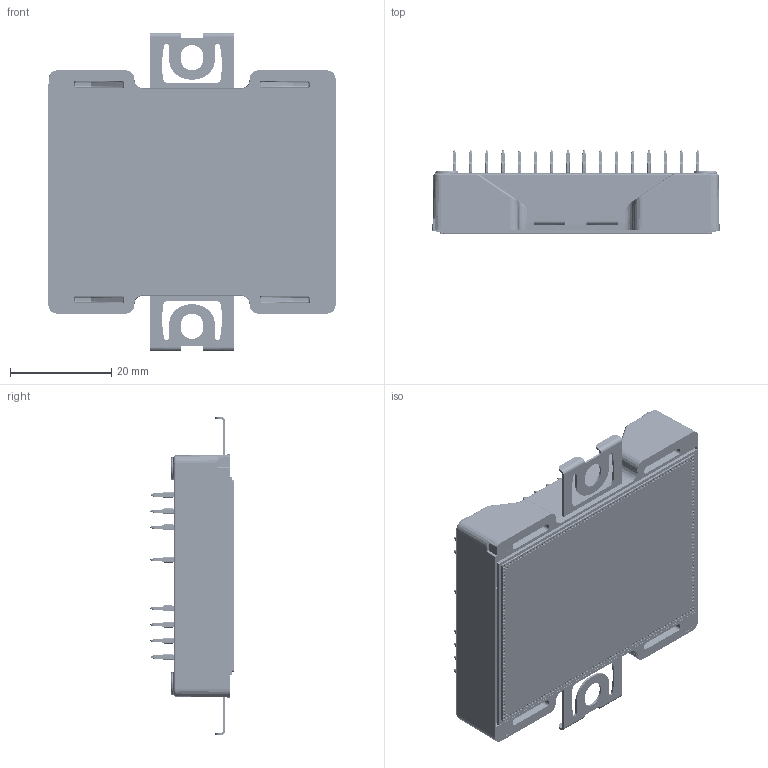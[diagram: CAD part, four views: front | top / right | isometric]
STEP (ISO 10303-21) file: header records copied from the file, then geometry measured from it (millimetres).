
FILE_DESCRIPTION (( 'STEP AP214' ), '1' );
FILE_NAME ('CCB016M12GM3(2026-05-29).STEP', '2026-05-29T13:36:29', ( '' ), ( '' ), 'SwSTEP 2.0', 'SolidWorks 2025', '' );
FILE_SCHEMA (( 'AUTOMOTIVE_DESIGN' ));
Length unit declared in the file: millimetre
Products named in the file (1): CCB016M12GM3(2026-05-29)
Bounding box: 56.7 x 16.4 x 62.8 mm (x, y, z)
Volume: 23633.4 mm3; surface area: 18104.8 mm2
Topology: 39 solids, 41 shells, 5667 faces, 14004 edges, 8742 vertices
Faces by surface type: cylinder 1869, plane 1582, bspline 1152, cone 1064
Entity records: 187802 total; most frequent: CARTESIAN_POINT 62243, ORIENTED_EDGE 28008, DIRECTION 23869, EDGE_CURVE 14004, AXIS2_PLACEMENT_3D 9142, VERTEX_POINT 8742, EDGE_LOOP 6330, FACE_OUTER_BOUND 5667
